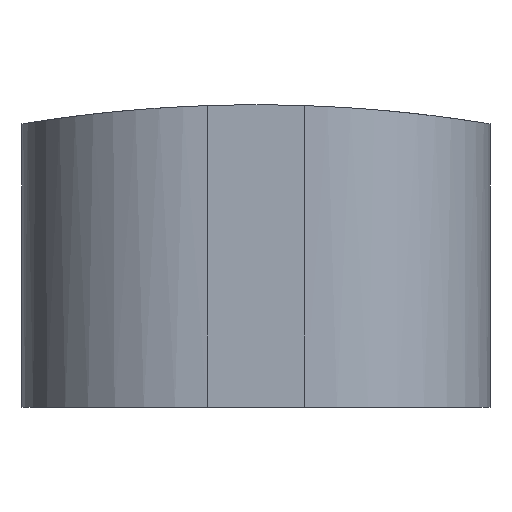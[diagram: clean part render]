
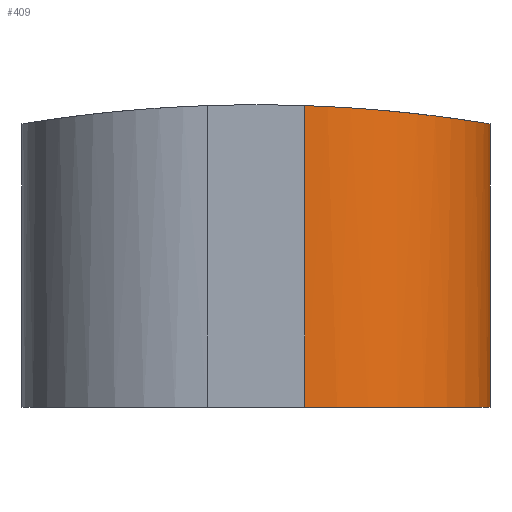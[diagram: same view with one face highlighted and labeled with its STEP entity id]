
A CAD part, front view. The second image highlights one B-rep face of the part: STEP entity #409.
In plain terms, the highlighted cylindrical face has radius 30.15 mm (diameter 60.3 mm), a partial arc.
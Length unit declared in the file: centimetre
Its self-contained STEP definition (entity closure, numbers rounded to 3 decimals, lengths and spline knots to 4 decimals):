
#117=VECTOR('',#468,1.);
#124=VECTOR('',#485,1.);
#145=LINE('',#738,#117);
#152=LINE('',#756,#124);
#171=B_SPLINE_CURVE_WITH_KNOTS('',3,(#586,#587,#588,#589,#590,#591,#592,
#593,#594,#595,#596,#597,#598,#599,#600,#601,#602,#603,#604,#605,#606,#607,
#608),.UNSPECIFIED.,.F.,.U.,(4,3,2,2,2,2,2,2,2,2,4),(-0.5686,
0.,0.569,1.1381,1.7071,2.2762,
2.8456,3.415,3.9845,4.5539,5.1218),
 .UNSPECIFIED.);
#182=VERTEX_POINT('',#585);
#183=VERTEX_POINT('',#609);
#193=VERTEX_POINT('',#739);
#199=VERTEX_POINT('',#757);
#215=CIRCLE('',#434,3.015);
#226=EDGE_CURVE('',#183,#182,#171,.T.);
#237=EDGE_CURVE('',#193,#183,#145,.T.);
#246=EDGE_CURVE('',#199,#182,#152,.T.);
#247=EDGE_CURVE('',#199,#193,#215,.T.);
#297=ORIENTED_EDGE('',*,*,#226,.T.);
#298=ORIENTED_EDGE('',*,*,#246,.F.);
#299=ORIENTED_EDGE('',*,*,#247,.T.);
#300=ORIENTED_EDGE('',*,*,#237,.T.);
#370=EDGE_LOOP('',(#297,#298,#299,#300));
#390=FACE_BOUND('',#370,.T.);
#409=ADVANCED_FACE('',(#390),#805,.T.);
#433=AXIS2_PLACEMENT_3D('',#755,#483,#484);
#434=AXIS2_PLACEMENT_3D('',#758,#486,#487);
#468=DIRECTION('',(0.,0.,1.));
#483=DIRECTION('',(0.,0.,1.));
#484=DIRECTION('',(3.015,0.,0.));
#485=DIRECTION('',(0.,0.,1.));
#486=DIRECTION('',(0.,0.,1.));
#487=DIRECTION('',(3.015,0.,0.));
#585=CARTESIAN_POINT('',(0.795,-4.2875,4.909));
#586=CARTESIAN_POINT('',(3.7536,-0.6923,4.6195));
#587=CARTESIAN_POINT('',(3.7918,-0.8871,4.6133));
#588=CARTESIAN_POINT('',(3.81,-1.083,4.6103));
#589=CARTESIAN_POINT('',(3.81,-1.2725,4.6103));
#590=CARTESIAN_POINT('',(3.81,-1.4622,4.6103));
#591=CARTESIAN_POINT('',(3.7918,-1.6583,4.6133));
#592=CARTESIAN_POINT('',(3.7153,-2.048,4.6257));
#593=CARTESIAN_POINT('',(3.657,-2.2417,4.6351));
#594=CARTESIAN_POINT('',(3.5031,-2.6131,4.659));
#595=CARTESIAN_POINT('',(3.4072,-2.791,4.6734));
#596=CARTESIAN_POINT('',(3.186,-3.1199,4.7049));
#597=CARTESIAN_POINT('',(3.0605,-3.2709,4.7219));
#598=CARTESIAN_POINT('',(2.7932,-3.5381,4.7556));
#599=CARTESIAN_POINT('',(2.6422,-3.6636,4.7735));
#600=CARTESIAN_POINT('',(2.3133,-3.8849,4.8085));
#601=CARTESIAN_POINT('',(2.1354,-3.9807,4.8256));
#602=CARTESIAN_POINT('',(1.7641,-4.1346,4.8567));
#603=CARTESIAN_POINT('',(1.5704,-4.1929,4.8706));
#604=CARTESIAN_POINT('',(1.1808,-4.2693,4.8935));
#605=CARTESIAN_POINT('',(0.9847,-4.2875,4.9026));
#606=CARTESIAN_POINT('',(0.6058,-4.2875,4.9154));
#607=CARTESIAN_POINT('',(0.4101,-4.2694,4.9197));
#608=CARTESIAN_POINT('',(0.2155,-4.2313,4.9215));
#609=CARTESIAN_POINT('',(3.81,-1.2725,4.6103));
#738=CARTESIAN_POINT('',(3.81,-1.2725,0.));
#739=CARTESIAN_POINT('',(3.81,-1.2725,0.));
#755=CARTESIAN_POINT('',(0.795,-1.2725,0.));
#756=CARTESIAN_POINT('',(0.795,-4.2875,0.));
#757=CARTESIAN_POINT('',(0.795,-4.2875,0.));
#758=CARTESIAN_POINT('',(0.795,-1.2725,0.));
#805=CYLINDRICAL_SURFACE('',#433,3.015);
